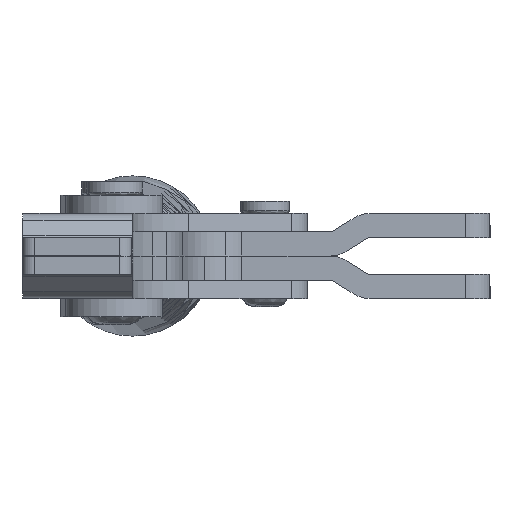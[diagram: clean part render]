
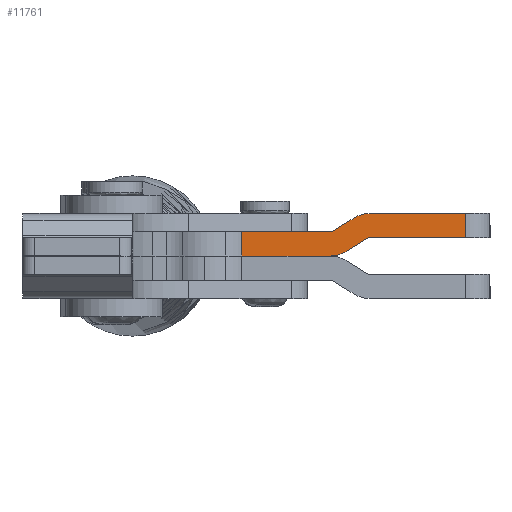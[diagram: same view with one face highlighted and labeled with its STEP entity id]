
A CAD part, left-side view. The second image highlights one B-rep face of the part: STEP entity #11761.
In plain terms, the highlighted planar face has unit normal (-1, 0, 0).
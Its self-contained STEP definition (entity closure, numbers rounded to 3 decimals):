
#167 = VERTEX_POINT ( 'NONE', #16233 ) ;
#216 = CARTESIAN_POINT ( 'NONE',  ( -21., -11.241, 0.149 ) ) ;
#382 = CIRCLE ( 'NONE', #5396, 5. ) ;
#1296 = DIRECTION ( 'NONE',  ( 0., -1., 0. ) ) ;
#1462 = EDGE_CURVE ( 'NONE', #6001, #11379, #22874, .T. ) ;
#1673 = LINE ( 'NONE', #28152, #20194 ) ;
#1965 = AXIS2_PLACEMENT_3D ( 'NONE', #30115, #35809, #36398 ) ;
#2016 = EDGE_CURVE ( 'NONE', #11379, #28140, #24774, .T. ) ;
#3952 = EDGE_CURVE ( 'NONE', #23517, #167, #34665, .T. ) ;
#3962 = AXIS2_PLACEMENT_3D ( 'NONE', #9624, #15333, #12574 ) ;
#3977 = CARTESIAN_POINT ( 'NONE',  ( -21., 3.791, 0. ) ) ;
#4464 = EDGE_CURVE ( 'NONE', #27227, #21021, #27292, .T. ) ;
#4519 = CARTESIAN_POINT ( 'NONE',  ( -21., -33., 3. ) ) ;
#4812 = DIRECTION ( 'NONE',  ( 0., 0., -1. ) ) ;
#4865 = DIRECTION ( 'NONE',  ( 0., 1., 0. ) ) ;
#5321 = VECTOR ( 'NONE', #12365, 1000. ) ;
#5396 = AXIS2_PLACEMENT_3D ( 'NONE', #12412, #24406, #14782 ) ;
#5751 = LINE ( 'NONE', #32220, #8143 ) ;
#5817 = CARTESIAN_POINT ( 'NONE',  ( -21., -14.66, 2.256 ) ) ;
#6001 = VERTEX_POINT ( 'NONE', #36731 ) ;
#6007 = LINE ( 'NONE', #5817, #34199 ) ;
#6103 = ORIENTED_EDGE ( 'NONE', *, *, #10744, .T. ) ;
#7895 = DIRECTION ( 'NONE',  ( 0., 1., 0. ) ) ;
#8143 = VECTOR ( 'NONE', #38318, 1000. ) ;
#8252 = VERTEX_POINT ( 'NONE', #14428 ) ;
#8281 = DIRECTION ( 'NONE',  ( 1., 0., 0. ) ) ;
#9584 = VERTEX_POINT ( 'NONE', #11052 ) ;
#9624 = CARTESIAN_POINT ( 'NONE',  ( -21., -11., -4. ) ) ;
#10744 = EDGE_CURVE ( 'NONE', #9584, #6001, #19715, .T. ) ;
#10888 = ORIENTED_EDGE ( 'NONE', *, *, #24388, .T. ) ;
#11052 = CARTESIAN_POINT ( 'NONE',  ( -21., -16.759, -1.149 ) ) ;
#11319 = CARTESIAN_POINT ( 'NONE',  ( -21., -33., -1. ) ) ;
#11379 = VERTEX_POINT ( 'NONE', #11319 ) ;
#11761 = ADVANCED_FACE ( 'NONE', ( #18467 ), #12180, .T. ) ;
#12180 = PLANE ( 'NONE',  #3962 ) ;
#12365 = DIRECTION ( 'NONE',  ( 0., 1., 0. ) ) ;
#12412 = CARTESIAN_POINT ( 'NONE',  ( -21., -10.717, 1. ) ) ;
#12574 = DIRECTION ( 'NONE',  ( 0., -1., 0. ) ) ;
#13006 = LINE ( 'NONE', #22049, #27600 ) ;
#13315 = ORIENTED_EDGE ( 'NONE', *, *, #4464, .T. ) ;
#14428 = CARTESIAN_POINT ( 'NONE',  ( -21., -17.283, 3. ) ) ;
#14462 = DIRECTION ( 'NONE',  ( 0., -1., 0. ) ) ;
#14650 = DIRECTION ( 'NONE',  ( -1., 0., 0. ) ) ;
#14782 = DIRECTION ( 'NONE',  ( 0., -1., 0. ) ) ;
#15333 = DIRECTION ( 'NONE',  ( -1., 0., 0. ) ) ;
#16170 = CARTESIAN_POINT ( 'NONE',  ( -21., -14.66, 2.256 ) ) ;
#16233 = CARTESIAN_POINT ( 'NONE',  ( -21., 3.791, -4. ) ) ;
#16573 = VECTOR ( 'NONE', #4865, 1000. ) ;
#16890 = EDGE_CURVE ( 'NONE', #17952, #9584, #13006, .T. ) ;
#17952 = VERTEX_POINT ( 'NONE', #31296 ) ;
#18382 = EDGE_CURVE ( 'NONE', #28140, #8252, #5751, .T. ) ;
#18455 = VECTOR ( 'NONE', #24961, 1000. ) ;
#18467 = FACE_OUTER_BOUND ( 'NONE', #22161, .T. ) ;
#19099 = AXIS2_PLACEMENT_3D ( 'NONE', #34768, #8281, #7895 ) ;
#19257 = CARTESIAN_POINT ( 'NONE',  ( -21., -33., -4. ) ) ;
#19411 = CARTESIAN_POINT ( 'NONE',  ( -21., -10.717, 0. ) ) ;
#19715 = CIRCLE ( 'NONE', #19099, 1. ) ;
#19774 = CARTESIAN_POINT ( 'NONE',  ( -21., 24.76, -4. ) ) ;
#19977 = CIRCLE ( 'NONE', #28102, 5. ) ;
#20117 = ORIENTED_EDGE ( 'NONE', *, *, #20357, .T. ) ;
#20194 = VECTOR ( 'NONE', #4812, 1000. ) ;
#20357 = EDGE_CURVE ( 'NONE', #21393, #27227, #27636, .T. ) ;
#20578 = VERTEX_POINT ( 'NONE', #16170 ) ;
#21021 = VERTEX_POINT ( 'NONE', #3977 ) ;
#21393 = VERTEX_POINT ( 'NONE', #216 ) ;
#21728 = ORIENTED_EDGE ( 'NONE', *, *, #3952, .F. ) ;
#21820 = EDGE_CURVE ( 'NONE', #21021, #167, #1673, .T. ) ;
#22049 = CARTESIAN_POINT ( 'NONE',  ( -21., -13.34, -3.256 ) ) ;
#22161 = EDGE_LOOP ( 'NONE', ( #30549, #6103, #33056, #37556, #32616, #29670, #10888, #20117, #13315, #34600, #21728, #24826 ) ) ;
#22242 = DIRECTION ( 'NONE',  ( 0., -0.851, 0.525 ) ) ;
#22874 = LINE ( 'NONE', #34816, #23482 ) ;
#23482 = VECTOR ( 'NONE', #1296, 1000. ) ;
#23517 = VERTEX_POINT ( 'NONE', #29625 ) ;
#24084 = CARTESIAN_POINT ( 'NONE',  ( -21., -17.283, -2. ) ) ;
#24388 = EDGE_CURVE ( 'NONE', #20578, #21393, #6007, .T. ) ;
#24406 = DIRECTION ( 'NONE',  ( -1., 0., 0. ) ) ;
#24774 = LINE ( 'NONE', #19257, #18455 ) ;
#24826 = ORIENTED_EDGE ( 'NONE', *, *, #24873, .T. ) ;
#24873 = EDGE_CURVE ( 'NONE', #23517, #17952, #382, .T. ) ;
#24961 = DIRECTION ( 'NONE',  ( 0., 0., 1. ) ) ;
#27227 = VERTEX_POINT ( 'NONE', #19411 ) ;
#27292 = LINE ( 'NONE', #32781, #5321 ) ;
#27600 = VECTOR ( 'NONE', #22242, 1000. ) ;
#27636 = CIRCLE ( 'NONE', #1965, 1. ) ;
#28102 = AXIS2_PLACEMENT_3D ( 'NONE', #24084, #14650, #14462 ) ;
#28140 = VERTEX_POINT ( 'NONE', #4519 ) ;
#28152 = CARTESIAN_POINT ( 'NONE',  ( -21., 3.791, -4. ) ) ;
#29625 = CARTESIAN_POINT ( 'NONE',  ( -21., -10.717, -4. ) ) ;
#29670 = ORIENTED_EDGE ( 'NONE', *, *, #33242, .T. ) ;
#30115 = CARTESIAN_POINT ( 'NONE',  ( -21., -10.717, 1. ) ) ;
#30314 = DIRECTION ( 'NONE',  ( 0., 0.851, -0.525 ) ) ;
#30549 = ORIENTED_EDGE ( 'NONE', *, *, #16890, .T. ) ;
#31296 = CARTESIAN_POINT ( 'NONE',  ( -21., -13.34, -3.256 ) ) ;
#32220 = CARTESIAN_POINT ( 'NONE',  ( -21., -11., 3. ) ) ;
#32616 = ORIENTED_EDGE ( 'NONE', *, *, #18382, .T. ) ;
#32781 = CARTESIAN_POINT ( 'NONE',  ( -21., -11., 0. ) ) ;
#33056 = ORIENTED_EDGE ( 'NONE', *, *, #1462, .T. ) ;
#33242 = EDGE_CURVE ( 'NONE', #8252, #20578, #19977, .T. ) ;
#34199 = VECTOR ( 'NONE', #30314, 1000. ) ;
#34600 = ORIENTED_EDGE ( 'NONE', *, *, #21820, .T. ) ;
#34665 = LINE ( 'NONE', #19774, #16573 ) ;
#34768 = CARTESIAN_POINT ( 'NONE',  ( -21., -17.283, -2. ) ) ;
#34816 = CARTESIAN_POINT ( 'NONE',  ( -21., -11., -1. ) ) ;
#35809 = DIRECTION ( 'NONE',  ( 1., 0., 0. ) ) ;
#36398 = DIRECTION ( 'NONE',  ( 0., 1., 0. ) ) ;
#36731 = CARTESIAN_POINT ( 'NONE',  ( -21., -17.283, -1. ) ) ;
#37556 = ORIENTED_EDGE ( 'NONE', *, *, #2016, .T. ) ;
#38318 = DIRECTION ( 'NONE',  ( 0., 1., 0. ) ) ;
